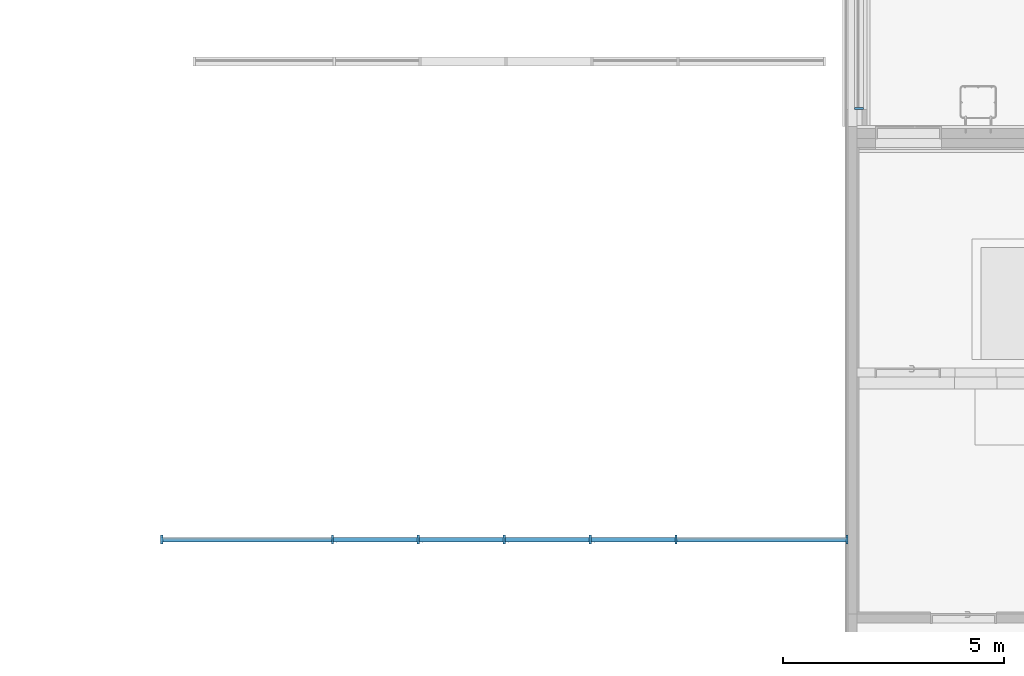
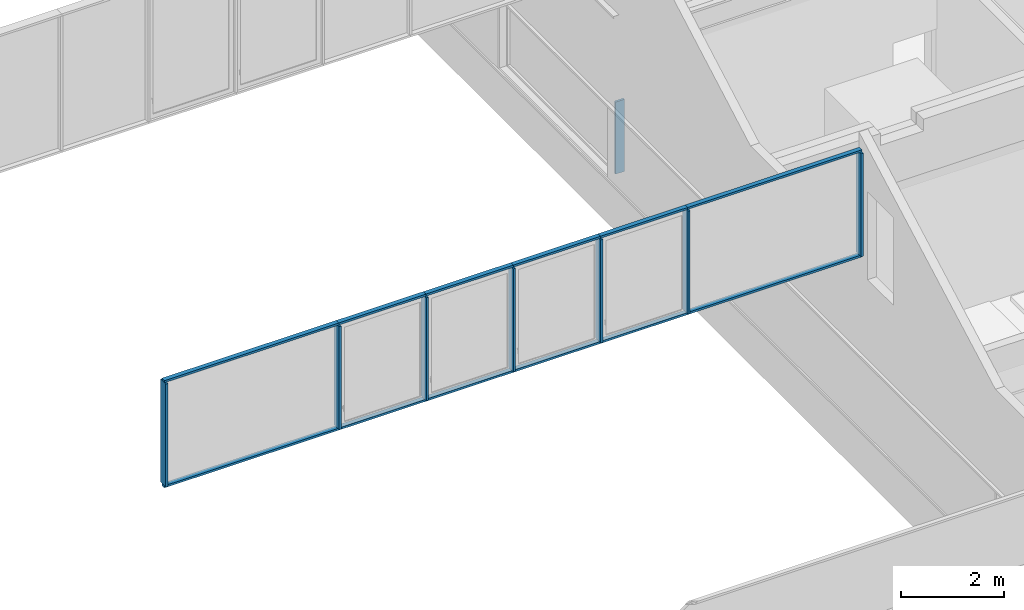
# One storey, part 8 of 44: 20 members, 2 elements without a shape of their own.
"""IFC2X3 building model written with IfcOpenShell, lengths in centimetres."""

from ifc_helpers import new_model, entity, si_unit, converted_unit, derived_unit, direction, frame, frame_2d, origin, origin_2d_with_axis, place, context, subcontext, project, spatial, rectangle, extrude, material, type_object, element, aggregate, save


model = new_model("IFC2X3")

# Units and contexts
model_context = context("Model", 3, precision=0.001, world=origin(), true_north=direction((6.12303176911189e-17, 1.0)))
body_context = subcontext(model_context, "Body", "Model", "MODEL_VIEW")
ifc_project = project(units=[si_unit("LENGTHUNIT", "METRE", prefix="CENTI"), si_unit("AREAUNIT", "SQUARE_METRE"), si_unit("VOLUMEUNIT", "CUBIC_METRE"), converted_unit("PLANEANGLEUNIT", "DEGREE", entity("IfcRatioMeasure", 0.0174532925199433), si_unit("PLANEANGLEUNIT", "RADIAN"), dimensions=[0, 0, 0, 0, 0, 0, 0]), si_unit("MASSUNIT", "GRAM", prefix="KILO"), si_unit("TIMEUNIT", "SECOND"), si_unit("FREQUENCYUNIT", "HERTZ"), si_unit("THERMODYNAMICTEMPERATUREUNIT", "DEGREE_CELSIUS"), derived_unit("THERMALTRANSMITTANCEUNIT", [(si_unit("MASSUNIT", "GRAM", prefix="KILO"), 1), (si_unit("THERMODYNAMICTEMPERATUREUNIT", "KELVIN"), -1), (si_unit("TIMEUNIT", "SECOND"), -3)]), derived_unit("VOLUMETRICFLOWRATEUNIT", [(si_unit("LENGTHUNIT", "METRE"), 3), (si_unit("TIMEUNIT", "SECOND"), -1)]), si_unit("ELECTRICCURRENTUNIT", "AMPERE"), si_unit("ELECTRICVOLTAGEUNIT", "VOLT"), si_unit("POWERUNIT", "WATT"), si_unit("FORCEUNIT", "NEWTON", prefix="KILO"), si_unit("ILLUMINANCEUNIT", "LUX"), si_unit("LUMINOUSFLUXUNIT", "LUMEN"), si_unit("LUMINOUSINTENSITYUNIT", "CANDELA"), derived_unit("USERDEFINED", [(si_unit("MASSUNIT", "GRAM", prefix="KILO"), -1), (si_unit("LENGTHUNIT", "METRE"), -2), (si_unit("TIMEUNIT", "SECOND"), 3), (si_unit("LUMINOUSFLUXUNIT", "LUMEN"), 1)]), derived_unit("LINEARVELOCITYUNIT", [(si_unit("LENGTHUNIT", "METRE"), 1), (si_unit("TIMEUNIT", "SECOND"), -1)]), si_unit("PRESSUREUNIT", "PASCAL"), derived_unit("USERDEFINED", [(si_unit("LENGTHUNIT", "METRE"), -2), (si_unit("MASSUNIT", "GRAM", prefix="KILO"), 1), (si_unit("TIMEUNIT", "SECOND"), -2)])], contexts=[model_context])

# Site, building, storey
site_placement = place(None, frame((8.62739174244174, -249.285249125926, 0.0)))
site = spatial("IfcSite", under=ifc_project, at=site_placement, Name="Default", CompositionType="ELEMENT")
building_placement = place(site_placement, origin())
building = spatial("IfcBuilding", under=site, at=building_placement, CompositionType="ELEMENT")
storey_placement = place(building_placement, frame((0.0, 0.0, 343.0)))
storey = spatial("IfcBuildingStorey", under=building, at=storey_placement, Name="R+1", CompositionType="ELEMENT", Elevation=343.0)

# Curtain wall, member
curtain_wall_type = type_object("IfcCurtainWallType", Name="Mur-rideau:Simple panneau", PredefinedType="NOTDEFINED")
curtain_wall_1_placement = place(storey_placement, frame((0.0, 0.0, -343.0)))
curtain_wall_1 = element("IfcCurtainWall", 1, at=curtain_wall_1_placement, inside=storey, type_object=curtain_wall_type, Name="Mur-rideau:Simple panneau", ObjectType="Mur-rideau:Simple panneau")
ifc_material = material(Name="Plastique, blanc opaque")
member_1_placement = place(curtain_wall_1_placement, frame((0.0, 0.0, 343.0)))
member_1 = element("IfcMember", 2, at=member_1_placement, material=ifc_material, Name="Mur-rideau:Simple panneau", ObjectType="Mur-rideau:Simple panneau", context=body_context, shape_type="SweptSolid", body=[
    extrude(rectangle(XDim=19.9999999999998, YDim=4.99999999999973, at=frame_2d((2.16715534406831e-13, 4.33209024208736e-13), x_axis=(1.0, 0.0))), frame((3058.90482779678, 6183.2801984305, 108.0), z_axis=(0.0, 0.0, 1.0), x_axis=(-1.0, 0.0, 0.0)), (0.0, 0.0, 1.0), 170.0),
])
aggregate(curtain_wall_1, [member_1])

# Curtain wall, members
curtain_wall_2_placement = place(storey_placement, frame((0.0, 0.0, -343.0)))
curtain_wall_2 = element("IfcCurtainWall", 3, at=curtain_wall_2_placement, inside=storey, type_object=curtain_wall_type, Name="Mur-rideau:Simple panneau", ObjectType="Mur-rideau:Simple panneau")
member_2_placement = place(curtain_wall_2_placement, frame((0.0, 0.0, 343.0)))
member_2 = element("IfcMember", 4, at=member_2_placement, material=ifc_material, Name="Mur-rideau:Simple panneau", ObjectType="Mur-rideau:Simple panneau", context=body_context, shape_type="SweptSolid", body=[
    extrude(rectangle(XDim=4.99999999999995, YDim=20.0000000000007, at=frame_2d((-1.08357767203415e-13, 0.0), x_axis=(1.0, 0.0))), frame((1479.4048277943, 5206.78358687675, 760.0), z_axis=(0.0, 0.0, -1.0), x_axis=(-1.0, 0.0, 0.0)), (0.0, 0.0, 1.0), 243.0),
])
member_3_placement = place(curtain_wall_2_placement, frame((0.0, 0.0, 343.0)))
member_3 = element("IfcMember", 5, at=member_3_placement, material=ifc_material, Name="Mur-rideau:Simple panneau", ObjectType="Mur-rideau:Simple panneau", context=body_context, shape_type="SweptSolid", body=[
    extrude(rectangle(XDim=4.99999999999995, YDim=9.99999999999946, at=frame_2d((1.08357767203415e-13, 0.0), x_axis=(1.0, 0.0))), frame((3033.90482780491, 5206.78358687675, 762.5), z_axis=(-1.0, 0.0, 0.0), x_axis=(0.0, 0.0, -1.0)), (0.0, 0.0, 1.0), 389.25000001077),
])
member_4_placement = place(curtain_wall_2_placement, frame((0.0, 0.0, 343.0)))
member_4 = element("IfcMember", 6, at=member_4_placement, material=ifc_material, Name="Mur-rideau:Simple panneau", ObjectType="Mur-rideau:Simple panneau", context=body_context, shape_type="SweptSolid", body=[
    extrude(rectangle(XDim=5.00000000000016, YDim=20.0000000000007, at=frame_2d((-2.16715534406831e-13, 0.0), x_axis=(1.0, 0.0))), frame((3031.40482780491, 5206.78358687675, 517.0), z_axis=(0.0, 0.0, 1.0), x_axis=(-1.0, 0.0, 0.0)), (0.0, 0.0, 1.0), 243.0),
])
member_5_placement = place(curtain_wall_2_placement, frame((0.0, 0.0, 343.0)))
member_5 = element("IfcMember", 7, at=member_5_placement, material=ifc_material, Name="Mur-rideau:Simple panneau", ObjectType="Mur-rideau:Simple panneau", context=body_context, shape_type="SweptSolid", body=[
    extrude(rectangle(XDim=5.00000000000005, YDim=9.99999999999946, at=frame_2d((-5.41788836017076e-14, 0.0), x_axis=(1.0, 0.0))), frame((1476.9048277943, 5206.78358687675, 514.5), z_axis=(1.0, 0.0, 0.0), x_axis=(0.0, 0.0, -1.0)), (0.0, 0.0, 1.0), 389.249999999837),
])
member_6_placement = place(curtain_wall_2_placement, frame((0.0, 0.0, 343.0)))
member_6 = element("IfcMember", 8, at=member_6_placement, material=ifc_material, Name="Mur-rideau:Simple panneau", ObjectType="Mur-rideau:Simple panneau", context=body_context, shape_type="SweptSolid", body=[
    extrude(rectangle(XDim=4.99999999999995, YDim=9.99999999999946, at=frame_2d((1.08357767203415e-13, 0.0), x_axis=(1.0, 0.0))), frame((2644.65482779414, 5206.78358687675, 762.5), z_axis=(-1.0, 0.0, 0.0), x_axis=(0.0, 0.0, -1.0)), (0.0, 0.0, 1.0), 194.625000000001),
])
member_7_placement = place(curtain_wall_2_placement, frame((0.0, 0.0, 343.0)))
member_7 = element("IfcMember", 9, at=member_7_placement, material=ifc_material, Name="Mur-rideau:Simple panneau", ObjectType="Mur-rideau:Simple panneau", context=body_context, shape_type="SweptSolid", body=[
    extrude(rectangle(XDim=5.00000000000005, YDim=9.99999999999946, at=frame_2d((-5.41788836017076e-14, 0.0), x_axis=(1.0, 0.0))), frame((2644.65482779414, 5206.78358687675, 514.5), z_axis=(1.0, 0.0, 0.0), x_axis=(0.0, 0.0, -1.0)), (0.0, 0.0, 1.0), 389.25000001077),
])
member_8_placement = place(curtain_wall_2_placement, frame((0.0, 0.0, 343.0)))
member_8 = element("IfcMember", 10, at=member_8_placement, material=ifc_material, Name="Mur-rideau:Simple panneau", ObjectType="Mur-rideau:Simple panneau", context=body_context, shape_type="SweptSolid", body=[
    extrude(rectangle(XDim=5.00000000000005, YDim=9.99999999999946, at=frame_2d((-5.41788836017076e-14, 0.0), x_axis=(1.0, 0.0))), frame((2255.40482779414, 5206.78358687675, 514.5), z_axis=(1.0, 0.0, 0.0), x_axis=(0.0, 0.0, -1.0)), (0.0, 0.0, 1.0), 194.625000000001),
])
member_9_placement = place(curtain_wall_2_placement, frame((0.0, 0.0, 343.0)))
member_9 = element("IfcMember", 11, at=member_9_placement, material=ifc_material, Name="Mur-rideau:Simple panneau", ObjectType="Mur-rideau:Simple panneau", context=body_context, shape_type="SweptSolid", body=[
    extrude(rectangle(XDim=4.99999999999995, YDim=9.99999999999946, at=frame_2d((1.08357767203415e-13, 0.0), x_axis=(1.0, 0.0))), frame((2255.40482779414, 5206.78358687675, 762.5), z_axis=(-1.0, 0.0, 0.0), x_axis=(0.0, 0.0, -1.0)), (0.0, 0.0, 1.0), 194.625000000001),
])
member_10_placement = place(curtain_wall_2_placement, frame((0.0, 0.0, 343.0)))
member_10 = element("IfcMember", 12, at=member_10_placement, material=ifc_material, Name="Mur-rideau:Simple panneau", ObjectType="Mur-rideau:Simple panneau", context=body_context, shape_type="SweptSolid", body=[
    extrude(rectangle(XDim=5.00000000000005, YDim=9.99999999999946, at=frame_2d((-5.41788836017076e-14, 0.0), x_axis=(1.0, 0.0))), frame((1866.15482779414, 5206.78358687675, 514.5), z_axis=(1.0, 0.0, 0.0), x_axis=(0.0, 0.0, -1.0)), (0.0, 0.0, 1.0), 194.625000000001),
])
member_11_placement = place(curtain_wall_2_placement, frame((0.0, 0.0, 343.0)))
member_11 = element("IfcMember", 13, at=member_11_placement, material=ifc_material, Name="Mur-rideau:Simple panneau", ObjectType="Mur-rideau:Simple panneau", context=body_context, shape_type="SweptSolid", body=[
    extrude(rectangle(XDim=4.99999999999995, YDim=9.99999999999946, at=frame_2d((1.08357767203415e-13, 0.0), x_axis=(1.0, 0.0))), frame((1866.15482779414, 5206.78358687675, 762.5), z_axis=(-1.0, 0.0, 0.0), x_axis=(0.0, 0.0, -1.0)), (0.0, 0.0, 1.0), 389.249999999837),
])
member_12_placement = place(curtain_wall_2_placement, frame((0.0, 0.0, 343.0)))
member_12 = element("IfcMember", 14, at=member_12_placement, material=ifc_material, Name="Mur-rideau:Simple panneau", ObjectType="Mur-rideau:Simple panneau", context=body_context, shape_type="SweptSolid", body=[
    extrude(rectangle(XDim=4.99999999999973, YDim=20.0000000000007, at=origin_2d_with_axis()), frame((2644.65482779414, 5206.78358687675, 517.0), z_axis=(0.0, 0.0, 1.0), x_axis=(-1.0, 0.0, 0.0)), (0.0, 0.0, 1.0), 243.0),
])
member_13_placement = place(curtain_wall_2_placement, frame((0.0, 0.0, 343.0)))
member_13 = element("IfcMember", 15, at=member_13_placement, material=ifc_material, Name="Mur-rideau:Simple panneau", ObjectType="Mur-rideau:Simple panneau", context=body_context, shape_type="SweptSolid", body=[
    extrude(rectangle(XDim=4.99999999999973, YDim=20.0000000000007, at=origin_2d_with_axis()), frame((2255.40482779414, 5206.78358687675, 517.0), z_axis=(0.0, 0.0, 1.0), x_axis=(-1.0, 0.0, 0.0)), (0.0, 0.0, 1.0), 243.0),
])
member_14_placement = place(curtain_wall_2_placement, frame((0.0, 0.0, 343.0)))
member_14 = element("IfcMember", 16, at=member_14_placement, material=ifc_material, Name="Mur-rideau:Simple panneau", ObjectType="Mur-rideau:Simple panneau", context=body_context, shape_type="SweptSolid", body=[
    extrude(rectangle(XDim=5.00000000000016, YDim=20.0000000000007, at=frame_2d((2.16715534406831e-13, 0.0), x_axis=(1.0, 0.0))), frame((1866.15482779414, 5206.78358687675, 517.0), z_axis=(0.0, 0.0, 1.0), x_axis=(-1.0, 0.0, 0.0)), (0.0, 0.0, 1.0), 243.0),
])
member_15_placement = place(curtain_wall_2_placement, frame((0.0, 0.0, 343.0)))
member_15 = element("IfcMember", 17, at=member_15_placement, material=ifc_material, Name="Mur-rideau:Simple panneau", ObjectType="Mur-rideau:Simple panneau", context=body_context, shape_type="SweptSolid", body=[
    extrude(rectangle(XDim=4.99999999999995, YDim=9.99999999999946, at=frame_2d((1.08357767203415e-13, 0.0), x_axis=(1.0, 0.0))), frame((2450.02982779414, 5206.78358687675, 762.5), z_axis=(-1.0, 0.0, 0.0), x_axis=(0.0, 0.0, -1.0)), (0.0, 0.0, 1.0), 194.625000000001),
])
member_16_placement = place(curtain_wall_2_placement, frame((0.0, 0.0, 343.0)))
member_16 = element("IfcMember", 18, at=member_16_placement, material=ifc_material, Name="Mur-rideau:Simple panneau", ObjectType="Mur-rideau:Simple panneau", context=body_context, shape_type="SweptSolid", body=[
    extrude(rectangle(XDim=5.00000000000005, YDim=9.99999999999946, at=frame_2d((-5.41788836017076e-14, 0.0), x_axis=(1.0, 0.0))), frame((2450.02982779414, 5206.78358687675, 514.5), z_axis=(1.0, 0.0, 0.0), x_axis=(0.0, 0.0, -1.0)), (0.0, 0.0, 1.0), 194.625000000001),
])
member_17_placement = place(curtain_wall_2_placement, frame((0.0, 0.0, 343.0)))
member_17 = element("IfcMember", 19, at=member_17_placement, material=ifc_material, Name="Mur-rideau:Simple panneau", ObjectType="Mur-rideau:Simple panneau", context=body_context, shape_type="SweptSolid", body=[
    extrude(rectangle(XDim=4.99999999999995, YDim=9.99999999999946, at=frame_2d((1.08357767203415e-13, 0.0), x_axis=(1.0, 0.0))), frame((2060.77982779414, 5206.78358687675, 762.5), z_axis=(-1.0, 0.0, 0.0), x_axis=(0.0, 0.0, -1.0)), (0.0, 0.0, 1.0), 194.625000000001),
])
member_18_placement = place(curtain_wall_2_placement, frame((0.0, 0.0, 343.0)))
member_18 = element("IfcMember", 20, at=member_18_placement, material=ifc_material, Name="Mur-rideau:Simple panneau", ObjectType="Mur-rideau:Simple panneau", context=body_context, shape_type="SweptSolid", body=[
    extrude(rectangle(XDim=5.00000000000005, YDim=9.99999999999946, at=frame_2d((-5.41788836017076e-14, 0.0), x_axis=(1.0, 0.0))), frame((2060.77982779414, 5206.78358687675, 514.5), z_axis=(1.0, 0.0, 0.0), x_axis=(0.0, 0.0, -1.0)), (0.0, 0.0, 1.0), 194.625000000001),
])
member_19_placement = place(curtain_wall_2_placement, frame((0.0, 0.0, 343.0)))
member_19 = element("IfcMember", 21, at=member_19_placement, material=ifc_material, Name="Mur-rideau:Simple panneau", ObjectType="Mur-rideau:Simple panneau", context=body_context, shape_type="SweptSolid", body=[
    extrude(rectangle(XDim=4.99999999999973, YDim=20.0000000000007, at=origin_2d_with_axis()), frame((2450.02982779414, 5206.78358687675, 517.0), z_axis=(0.0, 0.0, 1.0), x_axis=(-1.0, 0.0, 0.0)), (0.0, 0.0, 1.0), 243.0),
])
member_20_placement = place(curtain_wall_2_placement, frame((0.0, 0.0, 343.0)))
member_20 = element("IfcMember", 22, at=member_20_placement, material=ifc_material, Name="Mur-rideau:Simple panneau", ObjectType="Mur-rideau:Simple panneau", context=body_context, shape_type="SweptSolid", body=[
    extrude(rectangle(XDim=4.99999999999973, YDim=20.0000000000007, at=origin_2d_with_axis()), frame((2060.77982779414, 5206.78358687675, 517.0), z_axis=(0.0, 0.0, 1.0), x_axis=(-1.0, 0.0, 0.0)), (0.0, 0.0, 1.0), 243.0),
])
aggregate(curtain_wall_2, [member_2, member_3, member_4, member_5, member_6, member_7, member_8, member_9, member_10, member_11, member_12, member_13, member_14, member_15, member_16, member_17, member_18, member_19, member_20])

save(model, "model.ifc")
